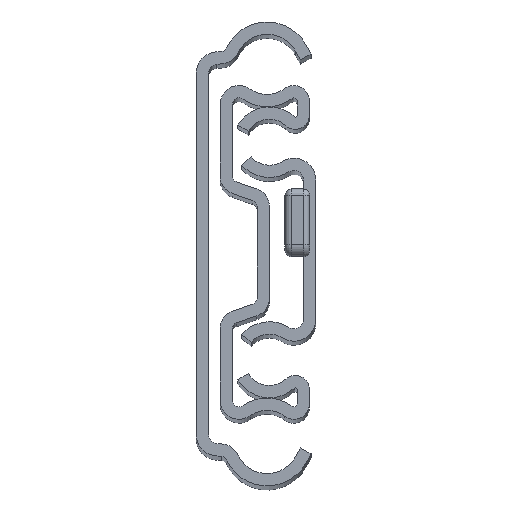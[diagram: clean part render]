
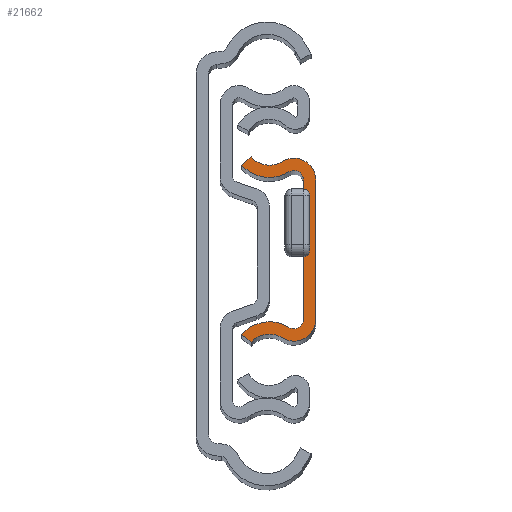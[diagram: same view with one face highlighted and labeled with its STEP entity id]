
A CAD part, top view. The second image highlights one B-rep face of the part: STEP entity #21662.
In plain terms, the highlighted planar face has unit normal (0, 0, 1).
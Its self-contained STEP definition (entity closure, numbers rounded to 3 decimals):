
#586 = EDGE_CURVE ( 'NONE', #14894, #17960, #15859, .T. ) ;
#630 = LINE ( 'NONE', #26042, #18745 ) ;
#1212 = EDGE_CURVE ( 'NONE', #11401, #18538, #17779, .T. ) ;
#1459 = EDGE_CURVE ( 'NONE', #10533, #11401, #630, .T. ) ;
#1843 = DIRECTION ( 'NONE',  ( 0., 0., -1. ) ) ;
#1895 = CARTESIAN_POINT ( 'NONE',  ( -6., 13.73, 0. ) ) ;
#2800 = EDGE_CURVE ( 'NONE', #24401, #10533, #25008, .T. ) ;
#2822 = ORIENTED_EDGE ( 'NONE', *, *, #586, .T. ) ;
#3048 = ORIENTED_EDGE ( 'NONE', *, *, #19346, .T. ) ;
#3223 = ORIENTED_EDGE ( 'NONE', *, *, #2800, .T. ) ;
#3254 = CARTESIAN_POINT ( 'NONE',  ( 4., -11.3, 0. ) ) ;
#3357 = AXIS2_PLACEMENT_3D ( 'NONE', #5955, #24944, #12209 ) ;
#3718 = DIRECTION ( 'NONE',  ( 0., -1., 0. ) ) ;
#4343 = AXIS2_PLACEMENT_3D ( 'NONE', #25620, #19144, #6550 ) ;
#4426 = VERTEX_POINT ( 'NONE', #4942 ) ;
#4431 = PLANE ( 'NONE',  #4343 ) ;
#4498 = CARTESIAN_POINT ( 'NONE',  ( 1.625, 12.615, 0. ) ) ;
#4751 = ORIENTED_EDGE ( 'NONE', *, *, #1212, .T. ) ;
#4822 = CARTESIAN_POINT ( 'NONE',  ( -4.498, -15.051, 0. ) ) ;
#4942 = CARTESIAN_POINT ( 'NONE',  ( 6., 11.3, 0. ) ) ;
#5049 = AXIS2_PLACEMENT_3D ( 'NONE', #22226, #12473, #5490 ) ;
#5490 = DIRECTION ( 'NONE',  ( -1., 0., 0. ) ) ;
#5641 = CARTESIAN_POINT ( 'NONE',  ( 2.448, -11.3, 0. ) ) ;
#5660 = ORIENTED_EDGE ( 'NONE', *, *, #7393, .T. ) ;
#5876 = ORIENTED_EDGE ( 'NONE', *, *, #1459, .T. ) ;
#5955 = CARTESIAN_POINT ( 'NONE',  ( 2.448, -11.3, 0. ) ) ;
#6191 = ORIENTED_EDGE ( 'NONE', *, *, #16712, .T. ) ;
#6266 = DIRECTION ( 'NONE',  ( 1., 0., 0. ) ) ;
#6335 = EDGE_CURVE ( 'NONE', #18538, #14879, #19292, .T. ) ;
#6550 = DIRECTION ( 'NONE',  ( 1., 0., 0. ) ) ;
#6764 = CARTESIAN_POINT ( 'NONE',  ( 4., 11.3, 0. ) ) ;
#6937 = CARTESIAN_POINT ( 'NONE',  ( -1.532, -17.658, 0. ) ) ;
#7041 = VECTOR ( 'NONE', #3718, 1000. ) ;
#7101 = DIRECTION ( 'NONE',  ( 0.751, -0.66, 0. ) ) ;
#7393 = EDGE_CURVE ( 'NONE', #18143, #23746, #21171, .T. ) ;
#7767 = CARTESIAN_POINT ( 'NONE',  ( 4., 0., 0. ) ) ;
#8784 = ORIENTED_EDGE ( 'NONE', *, *, #17219, .T. ) ;
#8846 = AXIS2_PLACEMENT_3D ( 'NONE', #14134, #24736, #12001 ) ;
#9414 = CARTESIAN_POINT ( 'NONE',  ( 2.448, 11.3, 0. ) ) ;
#9491 = AXIS2_PLACEMENT_3D ( 'NONE', #18261, #24626, #11992 ) ;
#9804 = AXIS2_PLACEMENT_3D ( 'NONE', #9414, #24323, #11508 ) ;
#10084 = EDGE_LOOP ( 'NONE', ( #20583, #6191, #8784, #3223, #5876, #4751, #23111, #3048, #5660, #27037, #15573, #2822 ) ) ;
#10146 = AXIS2_PLACEMENT_3D ( 'NONE', #5641, #26854, #14215 ) ;
#10533 = VERTEX_POINT ( 'NONE', #12619 ) ;
#10670 = AXIS2_PLACEMENT_3D ( 'NONE', #6937, #17431, #23679 ) ;
#11326 = CARTESIAN_POINT ( 'NONE',  ( -4.498, -15.051, 0. ) ) ;
#11401 = VERTEX_POINT ( 'NONE', #1895 ) ;
#11508 = DIRECTION ( 'NONE',  ( -1., 0., 0. ) ) ;
#11992 = DIRECTION ( 'NONE',  ( -1., 0., 0. ) ) ;
#12001 = DIRECTION ( 'NONE',  ( -1., 0., 0. ) ) ;
#12209 = DIRECTION ( 'NONE',  ( 1., 0., 0. ) ) ;
#12473 = DIRECTION ( 'NONE',  ( 0., 0., 1. ) ) ;
#12619 = CARTESIAN_POINT ( 'NONE',  ( -4.498, 15.051, 0. ) ) ;
#14134 = CARTESIAN_POINT ( 'NONE',  ( 2.448, 11.3, 0. ) ) ;
#14215 = DIRECTION ( 'NONE',  ( 1., 0., 0. ) ) ;
#14469 = CARTESIAN_POINT ( 'NONE',  ( -1.532, -17.658, 0. ) ) ;
#14635 = CARTESIAN_POINT ( 'NONE',  ( 6., 0., 0. ) ) ;
#14721 = DIRECTION ( 'NONE',  ( 0., 1., 0. ) ) ;
#14879 = VERTEX_POINT ( 'NONE', #6764 ) ;
#14894 = VERTEX_POINT ( 'NONE', #4822 ) ;
#15381 = CIRCLE ( 'NONE', #10670, 5.949 ) ;
#15573 = ORIENTED_EDGE ( 'NONE', *, *, #23292, .T. ) ;
#15859 = CIRCLE ( 'NONE', #17024, 3.949 ) ;
#16712 = EDGE_CURVE ( 'NONE', #20130, #4426, #25991, .T. ) ;
#17024 = AXIS2_PLACEMENT_3D ( 'NONE', #14469, #1843, #6266 ) ;
#17219 = EDGE_CURVE ( 'NONE', #4426, #24401, #18694, .T. ) ;
#17431 = DIRECTION ( 'NONE',  ( 0., 0., 1. ) ) ;
#17576 = CARTESIAN_POINT ( 'NONE',  ( 1.625, -12.615, 0. ) ) ;
#17578 = VERTEX_POINT ( 'NONE', #22671 ) ;
#17779 = CIRCLE ( 'NONE', #5049, 5.949 ) ;
#17960 = VERTEX_POINT ( 'NONE', #23964 ) ;
#18019 = EDGE_CURVE ( 'NONE', #23746, #17578, #15381, .T. ) ;
#18143 = VERTEX_POINT ( 'NONE', #3254 ) ;
#18261 = CARTESIAN_POINT ( 'NONE',  ( -1.532, 17.658, 0. ) ) ;
#18538 = VERTEX_POINT ( 'NONE', #4498 ) ;
#18694 = CIRCLE ( 'NONE', #9804, 3.552 ) ;
#18745 = VECTOR ( 'NONE', #19373, 1000. ) ;
#19144 = DIRECTION ( 'NONE',  ( 0., 0., 1. ) ) ;
#19292 = CIRCLE ( 'NONE', #8846, 1.552 ) ;
#19346 = EDGE_CURVE ( 'NONE', #14879, #18143, #20515, .T. ) ;
#19373 = DIRECTION ( 'NONE',  ( -0.751, -0.66, 0. ) ) ;
#19453 = CARTESIAN_POINT ( 'NONE',  ( 6., -11.3, 0. ) ) ;
#20130 = VERTEX_POINT ( 'NONE', #19453 ) ;
#20424 = CIRCLE ( 'NONE', #3357, 3.552 ) ;
#20515 = LINE ( 'NONE', #7767, #7041 ) ;
#20583 = ORIENTED_EDGE ( 'NONE', *, *, #24704, .T. ) ;
#21171 = CIRCLE ( 'NONE', #10146, 1.552 ) ;
#21662 = ADVANCED_FACE ( 'Face2', ( #26881 ), #4431, .T. ) ;
#22115 = VECTOR ( 'NONE', #7101, 1000. ) ;
#22226 = CARTESIAN_POINT ( 'NONE',  ( -1.532, 17.658, 0. ) ) ;
#22671 = CARTESIAN_POINT ( 'NONE',  ( -6., -13.73, 0. ) ) ;
#23111 = ORIENTED_EDGE ( 'NONE', *, *, #6335, .T. ) ;
#23292 = EDGE_CURVE ( 'NONE', #17578, #14894, #26790, .T. ) ;
#23300 = VECTOR ( 'NONE', #14721, 1000. ) ;
#23679 = DIRECTION ( 'NONE',  ( 1., 0., 0. ) ) ;
#23746 = VERTEX_POINT ( 'NONE', #17576 ) ;
#23964 = CARTESIAN_POINT ( 'NONE',  ( 0.563, -14.311, 0. ) ) ;
#24323 = DIRECTION ( 'NONE',  ( 0., 0., 1. ) ) ;
#24401 = VERTEX_POINT ( 'NONE', #26211 ) ;
#24626 = DIRECTION ( 'NONE',  ( 0., 0., -1. ) ) ;
#24704 = EDGE_CURVE ( 'NONE', #17960, #20130, #20424, .T. ) ;
#24736 = DIRECTION ( 'NONE',  ( 0., 0., -1. ) ) ;
#24944 = DIRECTION ( 'NONE',  ( 0., 0., 1. ) ) ;
#25008 = CIRCLE ( 'NONE', #9491, 3.949 ) ;
#25620 = CARTESIAN_POINT ( 'NONE',  ( 2.448, -11.3, 0. ) ) ;
#25991 = LINE ( 'NONE', #14635, #23300 ) ;
#26042 = CARTESIAN_POINT ( 'NONE',  ( -4.498, 15.051, 0. ) ) ;
#26211 = CARTESIAN_POINT ( 'NONE',  ( 0.563, 14.311, 0. ) ) ;
#26790 = LINE ( 'NONE', #11326, #22115 ) ;
#26854 = DIRECTION ( 'NONE',  ( 0., 0., -1. ) ) ;
#26881 = FACE_OUTER_BOUND ( 'NONE', #10084, .T. ) ;
#27037 = ORIENTED_EDGE ( 'NONE', *, *, #18019, .T. ) ;
